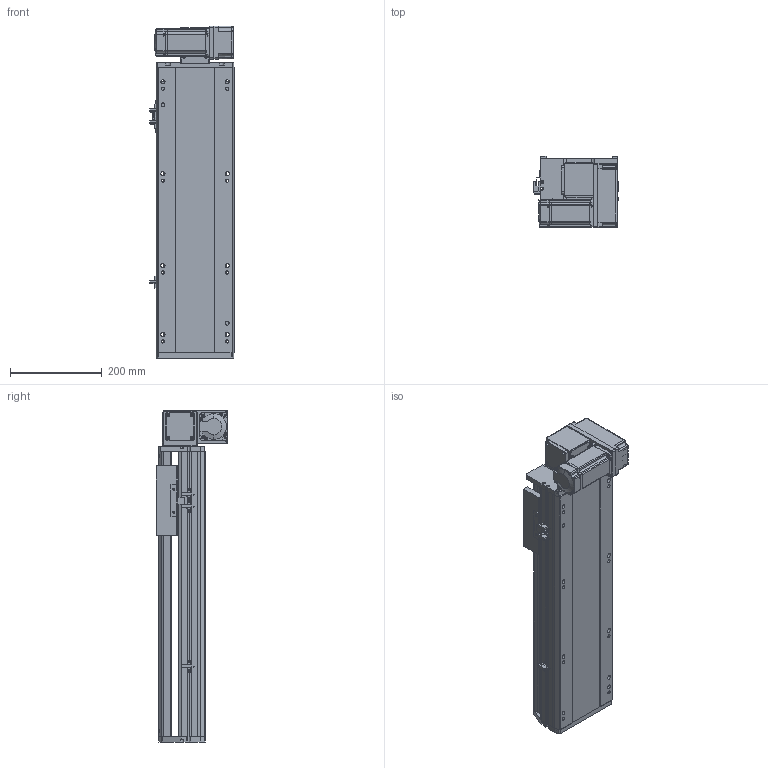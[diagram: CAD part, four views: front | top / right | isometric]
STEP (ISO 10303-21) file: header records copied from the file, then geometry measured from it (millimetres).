
FILE_DESCRIPTION (( 'STEP AP214' ), '1' );
FILE_NAME ('RTB17S-XX-350-RM-M40-C4.STEP', '2025-12-11T08:10:49', ( '' ), ( '' ), 'SwSTEP 2.0', 'SolidWorks 2018', '' );
FILE_SCHEMA (( 'AUTOMOTIVE_DESIGN' ));
Length unit declared in the file: millimetre
Products named in the file (14): RTB14-L-018P^RTB17S-RM-々湍釱蚾饜-400W_RTB17S-XX-XX-RM-M40-C4; RTB14-L-008-M20--萇儂啣^RTB17S-RM-々湍釱蚾饜-400W_RTB17S-XX-XX-RM-M40-C4; RTB17S-XX-350-RM-M40-C4; RTB17S-L-001耜醱啣^RTB17S-XX-XX-RM-M40-C4; OMRON EE-SX672 传感器^RTB17S-XX-XX-RM-M40-C4; 400W侜督萇儂^RTB17S-XX-XX-RM-M40-C4; RTB17S-L-004佪裝蹟譫蟀諉釱^RTB17S-XX-XX-RM-M40-C4; RTB17S-RM-々湍釱蚾饜-400W^RTB17S-XX-XX-RM-M40-C4; RTB14-L-005P--轴承塑胶压盖^RTB17S-RM-皮带座装配-400W_RTB17S-XX-XX-RM-M40-C4; RTB14-L-017P^RTB17S-RM-々湍釱蚾饜-400W_RTB17S-XX-XX-RM-M40-C4; RTB17S-L-014-T20--々湍釱^RTB17S-RM-々湍釱蚾饜-400W_RTB17S-XX-XX-RM-M40-C4; RTH13-BL-012覜茼え俋离^RTB17S-XX-XX-RM-M40-C4; RTB17S-L-007奻裔^RTB17S-XX-XX-RM-M40-C4; RTB17-R-011菁釱^RTB17S-XX-XX-RM-M40-C4
Assembly tree (16 placements, depth 3):
  RTB17S-XX-350-RM-M40-C4
    RTB17-R-011菁釱^RTB17S-XX-XX-RM-M40-C4
    RTB17S-L-007奻裔^RTB17S-XX-XX-RM-M40-C4
    OMRON EE-SX672 传感器^RTB17S-XX-XX-RM-M40-C4  x3
    RTB17S-L-001耜醱啣^RTB17S-XX-XX-RM-M40-C4
    400W侜督萇儂^RTB17S-XX-XX-RM-M40-C4
    RTB17S-L-004佪裝蹟譫蟀諉釱^RTB17S-XX-XX-RM-M40-C4
    RTH13-BL-012覜茼え俋离^RTB17S-XX-XX-RM-M40-C4
    RTB17S-RM-々湍釱蚾饜-400W^RTB17S-XX-XX-RM-M40-C4
      RTB17S-L-014-T20--々湍釱^RTB17S-RM-々湍釱蚾饜-400W_RTB17S-XX-XX-RM-M40-C4
      RTB14-L-005P--轴承塑胶压盖^RTB17S-RM-皮带座装配-400W_RTB17S-XX-XX-RM-M40-C4
      RTB14-L-008-M20--萇儂啣^RTB17S-RM-々湍釱蚾饜-400W_RTB17S-XX-XX-RM-M40-C4
      RTB14-L-017P^RTB17S-RM-々湍釱蚾饜-400W_RTB17S-XX-XX-RM-M40-C4  x2
      RTB14-L-018P^RTB17S-RM-々湍釱蚾饜-400W_RTB17S-XX-XX-RM-M40-C4
Bounding box: 183.5 x 156.5 x 722.5 mm (x, y, z)
Volume: 7073678.8 mm3; surface area: 920025.4 mm2
Topology: 15 solids, 15 shells, 2157 faces, 5925 edges, 3861 vertices
Faces by surface type: plane 1062, cylinder 647, bspline 301, cone 139, torus 8
Entity records: 60329 total; most frequent: CARTESIAN_POINT 16730, ORIENTED_EDGE 8694, DIRECTION 8126, EDGE_CURVE 4347, VERTEX_POINT 2849, AXIS2_PLACEMENT_3D 2779, LINE 2568, VECTOR 2568
